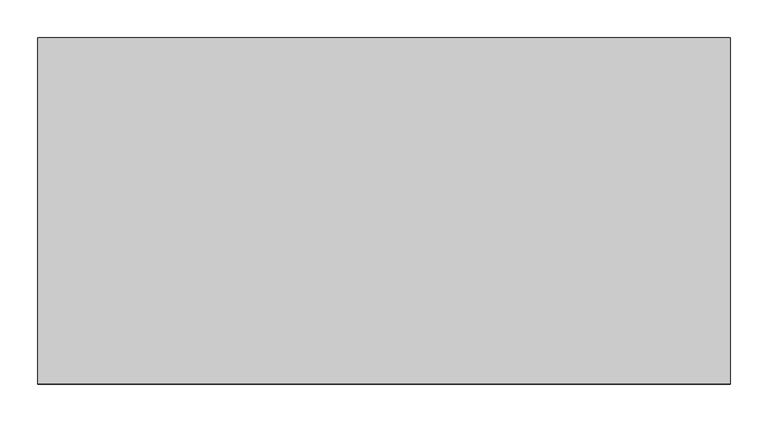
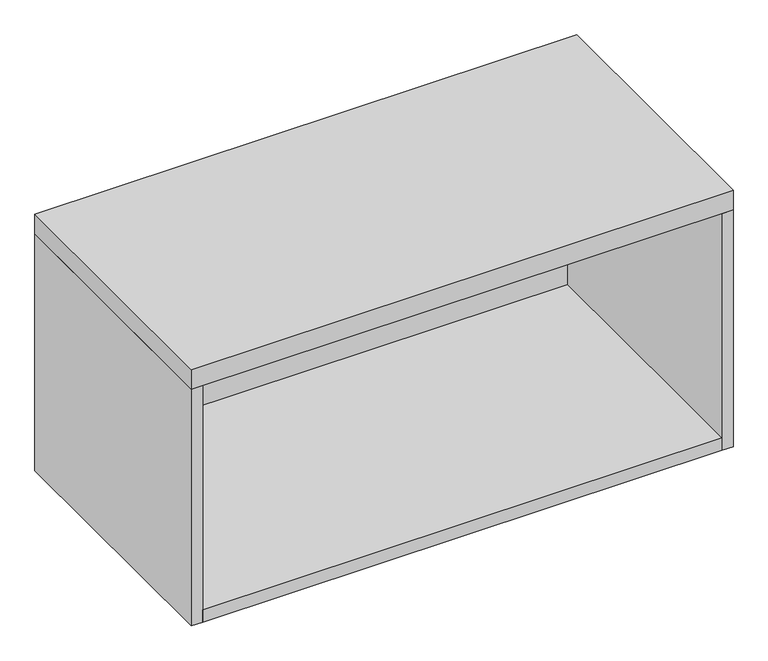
"""IFC4 building model written with IfcOpenShell, lengths in millimetres: furniture geometry, Steelcase - 900 Series - Storage - Overfile Cabinet - Flush Steel : Open - 36W x 18H."""

from ifc_helpers import new_model, si_unit, frame, origin, place, context, project, spatial, polyline, outline, extrude, source, transform, mapped, element, save


def furniture_15a6a1d8(model_context):
    return source(origin(), model_context, "Body", "SweptSolid", [
        extrude(outline(polyline([(895.0960184, -6.3500002), (895.0960184, -457.2), (19.3039998, -457.2), (19.3039998, -6.3500002), (895.0960184, -6.3500002)])), frame((0.0, 0.0, 1589.278), z_axis=(0.0, 0.0, 1.0), x_axis=(1.0, 0.0, 0.0)), (0.0, 0.0, 1.0), 22.2249516),
        extrude(outline(polyline([(914.4, 0.0), (914.4, -457.2), (0.0, -457.2), (0.0, 0.0), (914.4, 0.0)])), frame((0.0, 0.0, 2011.5529516), z_axis=(0.0, 0.0, 1.0), x_axis=(1.0, 0.0, 0.0)), (0.0, 0.0, 1.0), 34.9250484),
        extrude(outline(polyline([(895.0960184, -6.3500002), (19.3039998, -6.3500002), (19.3039998, -457.2), (0.0, -457.2), (0.0, 0.0), (914.4, 0.0), (914.4, -457.2), (895.0960184, -457.2), (895.0960184, -6.3500002)])), frame((0.0, 0.0, 1589.278), z_axis=(0.0, 0.0, 1.0), x_axis=(1.0, 0.0, 0.0)), (0.0, 0.0, 1.0), 422.2749516),
    ])


if __name__ == "__main__":
    model = new_model("IFC4")
    model_context = context("Model", 3, world=origin())
    ifc_project = project(units=[si_unit("LENGTHUNIT", "METRE", prefix="MILLI")], contexts=[model_context])
    site = spatial("IfcSite", under=ifc_project)
    building = spatial("IfcBuilding", under=site)
    placement = place(None, origin())
    furniture_shape = furniture_15a6a1d8(model_context)
    element("IfcFurniture", 1, ObjectType="Steelcase - 900 Series - Storage - Overfile Cabinet - Flush Steel : Open - 36W x 18H", at=placement, inside=building, context=model_context, shape_type="MappedRepresentation", body=[
        mapped(furniture_shape, transform((0.0, 0.0, 0.0), x_axis=(1.0, 0.0, 0.0), y_axis=(0.0, 1.0, 0.0), z_axis=(0.0, 0.0, 1.0))),
    ])
    save(model, "model.ifc")
